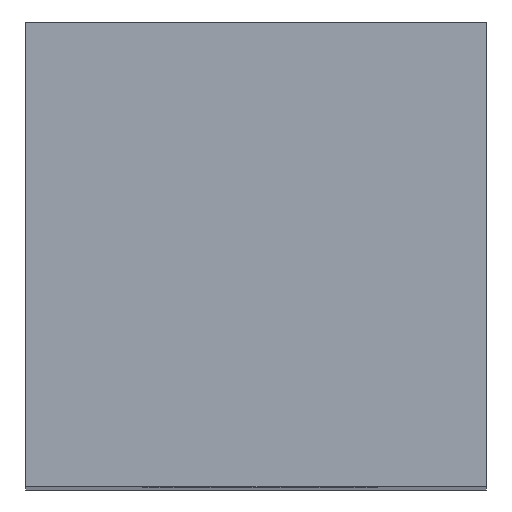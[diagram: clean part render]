
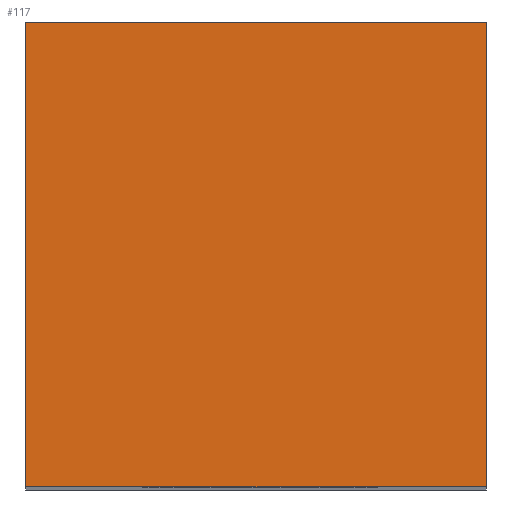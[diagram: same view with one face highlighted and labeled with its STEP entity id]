
A CAD part, top view. The second image highlights one B-rep face of the part: STEP entity #117.
In plain terms, the highlighted planar face has unit normal (0, 0, 1).
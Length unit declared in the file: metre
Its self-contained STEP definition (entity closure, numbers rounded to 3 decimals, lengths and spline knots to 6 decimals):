
#15=ORIENTED_EDGE('',*,*,#43,.F.);
#16=ORIENTED_EDGE('',*,*,#44,.F.);
#17=ORIENTED_EDGE('',*,*,#45,.T.);
#18=ORIENTED_EDGE('',*,*,#46,.T.);
#43=EDGE_CURVE('',#57,#58,#67,.T.);
#44=EDGE_CURVE('',#59,#57,#68,.T.);
#45=EDGE_CURVE('',#59,#60,#69,.T.);
#46=EDGE_CURVE('',#60,#58,#70,.T.);
#57=VERTEX_POINT('',#181);
#58=VERTEX_POINT('',#182);
#59=VERTEX_POINT('',#184);
#60=VERTEX_POINT('',#186);
#67=LINE('',#180,#79);
#68=LINE('',#183,#80);
#69=LINE('',#185,#81);
#70=LINE('',#187,#82);
#79=VECTOR('',#150,1.);
#80=VECTOR('',#151,1.);
#81=VECTOR('',#152,1.);
#82=VECTOR('',#153,1.);
#91=EDGE_LOOP('',(#15,#16,#17,#18));
#101=FACE_BOUND('',#91,.T.);
#111=PLANE('',#137);
#117=ADVANCED_FACE('',(#101),#111,.T.);
#137=AXIS2_PLACEMENT_3D('',#179,#148,#149);
#148=DIRECTION('',(0.,0.,1.));
#149=DIRECTION('',(1.,0.,0.));
#150=DIRECTION('',(-1.,0.,0.));
#151=DIRECTION('',(0.,-1.,0.));
#152=DIRECTION('',(-1.,0.,0.));
#153=DIRECTION('',(0.,-1.,0.));
#179=CARTESIAN_POINT('',(-0.07618,0.0648,0.074254));
#180=CARTESIAN_POINT('',(-0.07618,0.0298,0.074254));
#181=CARTESIAN_POINT('',(-0.058841,0.0298,0.074254));
#182=CARTESIAN_POINT('',(-0.09352,0.0298,0.074254));
#183=CARTESIAN_POINT('',(-0.058841,0.0648,0.074254));
#184=CARTESIAN_POINT('',(-0.058841,0.0648,0.074254));
#185=CARTESIAN_POINT('',(-0.07618,0.0648,0.074254));
#186=CARTESIAN_POINT('',(-0.09352,0.0648,0.074254));
#187=CARTESIAN_POINT('',(-0.09352,0.0648,0.074254));
